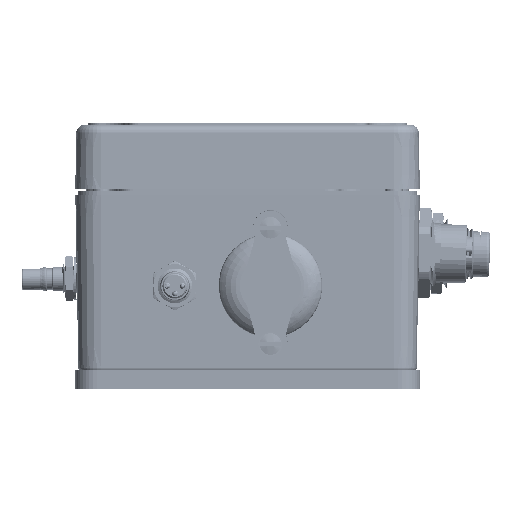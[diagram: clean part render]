
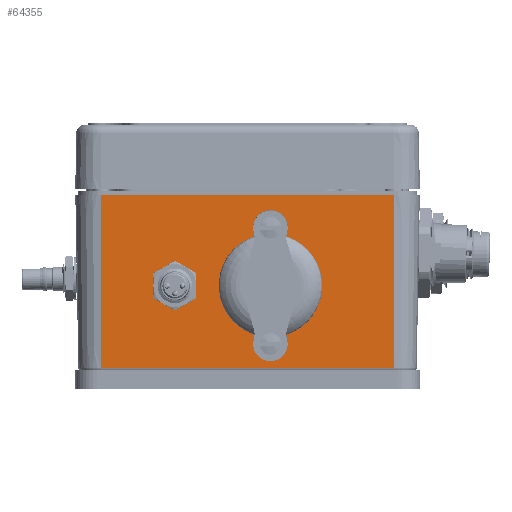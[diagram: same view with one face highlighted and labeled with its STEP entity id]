
A CAD part, left-side view. The second image highlights one B-rep face of the part: STEP entity #64355.
In plain terms, the highlighted planar face has unit normal (-1, 0, -0.018).
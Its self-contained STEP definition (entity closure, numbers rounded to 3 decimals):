
#3537=FACE_BOUND('',#8839,.T.);
#3538=FACE_BOUND('',#8840,.T.);
#5003=FACE_OUTER_BOUND('',#8838,.T.);
#8838=EDGE_LOOP('',(#48657,#48658,#48659,#48660));
#8839=EDGE_LOOP('',(#48661));
#8840=EDGE_LOOP('',(#48662,#48663,#48664,#48665,#48666,#48667,#48668,#48669));
#11656=CIRCLE('',#68041,4.);
#11714=CIRCLE('',#68148,12.);
#11716=CIRCLE('',#68151,4.);
#11718=CIRCLE('',#68154,4.);
#11720=CIRCLE('',#68157,4.);
#11756=CIRCLE('',#68216,12.);
#11762=CIRCLE('',#68228,4.);
#11763=CIRCLE('',#68231,4.);
#11764=CIRCLE('',#68233,4.);
#17393=LINE('',#100993,#22971);
#17394=LINE('',#100995,#22972);
#17395=LINE('',#100997,#22973);
#17396=LINE('',#100998,#22974);
#22971=VECTOR('',#79450,1.);
#22972=VECTOR('',#79451,1.);
#22973=VECTOR('',#79452,1.);
#22974=VECTOR('',#79453,1.);
#27461=VERTEX_POINT('',#98846);
#27530=VERTEX_POINT('',#99123);
#27531=VERTEX_POINT('',#99124);
#27534=VERTEX_POINT('',#99132);
#27540=VERTEX_POINT('',#99162);
#27542=VERTEX_POINT('',#99168);
#27692=VERTEX_POINT('',#99990);
#27700=VERTEX_POINT('',#100046);
#27701=VERTEX_POINT('',#100052);
#27830=VERTEX_POINT('',#100991);
#27831=VERTEX_POINT('',#100992);
#27832=VERTEX_POINT('',#100994);
#27833=VERTEX_POINT('',#100996);
#34760=EDGE_CURVE('',#27461,#27461,#11656,.T.);
#34870=EDGE_CURVE('',#27530,#27531,#11714,.T.);
#34874=EDGE_CURVE('',#27534,#27530,#11716,.T.);
#34881=EDGE_CURVE('',#27540,#27534,#11718,.T.);
#34884=EDGE_CURVE('',#27542,#27540,#11720,.T.);
#35045=EDGE_CURVE('',#27692,#27542,#11756,.T.);
#35059=EDGE_CURVE('',#27700,#27692,#11762,.T.);
#35062=EDGE_CURVE('',#27701,#27700,#11763,.T.);
#35064=EDGE_CURVE('',#27531,#27701,#11764,.T.);
#35321=EDGE_CURVE('',#27830,#27831,#17393,.T.);
#35322=EDGE_CURVE('',#27832,#27830,#17394,.T.);
#35323=EDGE_CURVE('',#27832,#27833,#17395,.T.);
#35324=EDGE_CURVE('',#27833,#27831,#17396,.T.);
#48657=ORIENTED_EDGE('',*,*,#35321,.F.);
#48658=ORIENTED_EDGE('',*,*,#35322,.F.);
#48659=ORIENTED_EDGE('',*,*,#35323,.T.);
#48660=ORIENTED_EDGE('',*,*,#35324,.T.);
#48661=ORIENTED_EDGE('',*,*,#34760,.T.);
#48662=ORIENTED_EDGE('',*,*,#34884,.T.);
#48663=ORIENTED_EDGE('',*,*,#34881,.T.);
#48664=ORIENTED_EDGE('',*,*,#34874,.T.);
#48665=ORIENTED_EDGE('',*,*,#34870,.T.);
#48666=ORIENTED_EDGE('',*,*,#35064,.T.);
#48667=ORIENTED_EDGE('',*,*,#35062,.T.);
#48668=ORIENTED_EDGE('',*,*,#35059,.T.);
#48669=ORIENTED_EDGE('',*,*,#35045,.T.);
#62266=PLANE('',#68403);
#64355=ADVANCED_FACE('',(#5003,#3537,#3538),#62266,.T.);
#68041=AXIS2_PLACEMENT_3D('',#98848,#78547,#78548);
#68148=AXIS2_PLACEMENT_3D('',#99125,#78789,#78790);
#68151=AXIS2_PLACEMENT_3D('',#99133,#78797,#78798);
#68154=AXIS2_PLACEMENT_3D('',#99163,#78805,#78806);
#68157=AXIS2_PLACEMENT_3D('',#99169,#78812,#78813);
#68216=AXIS2_PLACEMENT_3D('',#99991,#78939,#78940);
#68228=AXIS2_PLACEMENT_3D('',#100047,#78967,#78968);
#68231=AXIS2_PLACEMENT_3D('',#100053,#78975,#78976);
#68233=AXIS2_PLACEMENT_3D('',#100056,#78980,#78981);
#68403=AXIS2_PLACEMENT_3D('',#100990,#79448,#79449);
#78547=DIRECTION('center_axis',(1.,0.,
0.017));
#78548=DIRECTION('ref_axis',(0.017,0.,-1.));
#78789=DIRECTION('center_axis',(1.,0.,
0.017));
#78790=DIRECTION('ref_axis',(0.,1.,0.));
#78797=DIRECTION('center_axis',(-1.,0.,
-0.017));
#78798=DIRECTION('ref_axis',(0.,1.,0.001));
#78805=DIRECTION('center_axis',(1.,0.,
0.017));
#78806=DIRECTION('ref_axis',(-0.017,0.,
1.));
#78812=DIRECTION('center_axis',(-1.,0.,
-0.017));
#78813=DIRECTION('ref_axis',(0.,-1.,0.001));
#78939=DIRECTION('center_axis',(1.,0.,
0.017));
#78940=DIRECTION('ref_axis',(0.,1.,0.));
#78967=DIRECTION('center_axis',(-1.,0.,
-0.017));
#78968=DIRECTION('ref_axis',(0.,-1.,-0.001));
#78975=DIRECTION('center_axis',(1.,0.,
0.017));
#78976=DIRECTION('ref_axis',(0.017,0.,-1.));
#78980=DIRECTION('center_axis',(-1.,0.,
-0.017));
#78981=DIRECTION('ref_axis',(0.,1.,-0.001));
#79448=DIRECTION('center_axis',(-1.,0.,
-0.017));
#79449=DIRECTION('ref_axis',(0.,1.,0.));
#79450=DIRECTION('',(0.,1.,0.));
#79451=DIRECTION('',(0.017,0.,-1.));
#79452=DIRECTION('',(0.,1.,0.));
#79453=DIRECTION('',(0.017,0.,-1.));
#98846=CARTESIAN_POINT('',(15.313,46.864,23.625));
#98848=CARTESIAN_POINT('Origin',(15.383,46.864,19.626));
#99123=CARTESIAN_POINT('',(15.183,20.999,31.061));
#99124=CARTESIAN_POINT('',(15.582,20.999,8.225));
#99125=CARTESIAN_POINT('Origin',(15.382,24.686,19.643));
#99132=CARTESIAN_POINT('',(15.166,20.844,32.027));
#99133=CARTESIAN_POINT('Origin',(15.186,17.002,30.913));
#99162=CARTESIAN_POINT('',(15.166,28.527,32.027));
#99163=CARTESIAN_POINT('Origin',(15.147,24.686,33.14));
#99168=CARTESIAN_POINT('',(15.183,28.372,31.061));
#99169=CARTESIAN_POINT('Origin',(15.186,32.369,30.913));
#99990=CARTESIAN_POINT('',(15.582,28.372,8.225));
#99991=CARTESIAN_POINT('Origin',(15.382,24.686,19.643));
#100046=CARTESIAN_POINT('',(15.599,28.527,7.258));
#100047=CARTESIAN_POINT('Origin',(15.579,32.369,8.372));
#100052=CARTESIAN_POINT('',(15.599,20.844,7.258));
#100053=CARTESIAN_POINT('Origin',(15.618,24.686,6.145));
#100056=CARTESIAN_POINT('Origin',(15.579,17.002,8.372));
#100990=CARTESIAN_POINT('Origin',(15.,30.,41.552));
#100991=CARTESIAN_POINT('',(15.716,-4.,0.535));
#100992=CARTESIAN_POINT('',(15.716,64.,0.535));
#100993=CARTESIAN_POINT('',(15.716,30.,0.535));
#100994=CARTESIAN_POINT('',(15.017,-4.,40.552));
#100995=CARTESIAN_POINT('',(15.,-4.,41.552));
#100996=CARTESIAN_POINT('',(15.017,64.,40.552));
#100997=CARTESIAN_POINT('',(15.017,30.,40.552));
#100998=CARTESIAN_POINT('',(15.,64.,41.552));
